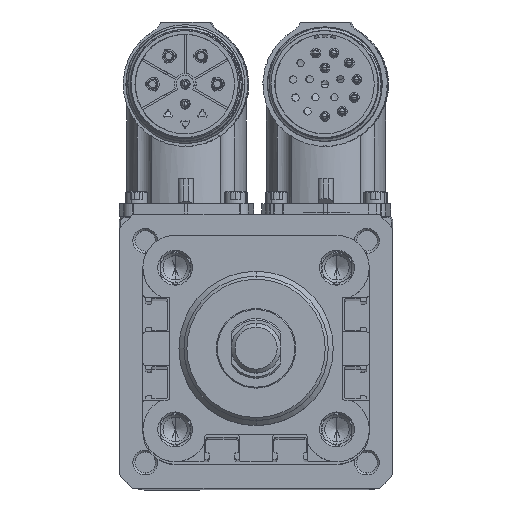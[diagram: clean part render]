
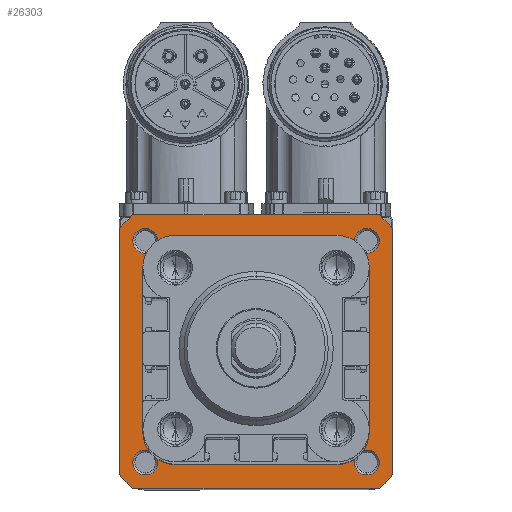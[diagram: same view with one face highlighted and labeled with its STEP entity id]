
A CAD part, top view. The second image highlights one B-rep face of the part: STEP entity #26303.
In plain terms, the highlighted planar face has unit normal (0, 0, 1) as drawn and (0, 0, -1) by its records, which use the part's own axes.
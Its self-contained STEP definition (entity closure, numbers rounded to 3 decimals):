
#24393=CARTESIAN_POINT('',(0.,0.,0.));
#24394=DIRECTION('',(0.,0.,1.));
#24395=DIRECTION('',(0.,1.,0.));
#24396=AXIS2_PLACEMENT_3D('',#24393,#24394,#24395);
#24398=CARTESIAN_POINT('',(0.,0.,0.));
#24399=DIRECTION('',(0.,0.,-1.));
#24400=DIRECTION('',(0.,1.,0.));
#24401=AXIS2_PLACEMENT_3D('',#24398,#24399,#24400);
#24403=CARTESIAN_POINT('',(0.,0.,0.));
#24404=DIRECTION('',(0.,0.,1.));
#24405=DIRECTION('',(-0.669,0.743,0.));
#24406=AXIS2_PLACEMENT_3D('',#24403,#24404,#24405);
#24408=DIRECTION('',(0.,1.,0.));
#24409=VECTOR('',#24408,49.508);
#24410=CARTESIAN_POINT('',(-27.5,-24.754,0.));
#24411=LINE('',#24410,#24409);
#24412=CARTESIAN_POINT('',(0.,0.,0.));
#24413=DIRECTION('',(0.,0.,1.));
#24414=DIRECTION('',(-0.743,-0.669,0.));
#24415=AXIS2_PLACEMENT_3D('',#24412,#24413,#24414);
#24417=DIRECTION('',(-1.,0.,0.));
#24418=VECTOR('',#24417,49.508);
#24419=CARTESIAN_POINT('',(24.754,-27.5,0.));
#24420=LINE('',#24419,#24418);
#24421=CARTESIAN_POINT('',(0.,0.,0.));
#24422=DIRECTION('',(0.,0.,1.));
#24423=DIRECTION('',(0.669,-0.743,0.));
#24424=AXIS2_PLACEMENT_3D('',#24421,#24422,#24423);
#24426=DIRECTION('',(0.,-1.,0.));
#24427=VECTOR('',#24426,49.508);
#24428=CARTESIAN_POINT('',(27.5,24.754,0.));
#24429=LINE('',#24428,#24427);
#24430=CARTESIAN_POINT('',(0.,0.,0.));
#24431=DIRECTION('',(0.,0.,1.));
#24432=DIRECTION('',(0.743,0.669,0.));
#24433=AXIS2_PLACEMENT_3D('',#24430,#24431,#24432);
#24435=DIRECTION('',(1.,0.,0.));
#24436=VECTOR('',#24435,49.508);
#24437=CARTESIAN_POINT('',(-24.754,27.5,0.));
#24438=LINE('',#24437,#24436);
#24439=CARTESIAN_POINT('',(22.274,22.274,0.));
#24440=DIRECTION('',(0.,0.,1.));
#24441=DIRECTION('',(0.,1.,0.));
#24442=AXIS2_PLACEMENT_3D('',#24439,#24440,#24441);
#24444=CARTESIAN_POINT('',(22.274,22.274,0.));
#24445=DIRECTION('',(0.,0.,1.));
#24446=DIRECTION('',(0.,-1.,0.));
#24447=AXIS2_PLACEMENT_3D('',#24444,#24445,#24446);
#24449=CARTESIAN_POINT('',(22.274,-22.274,0.));
#24450=DIRECTION('',(0.,0.,-1.));
#24451=DIRECTION('',(0.,-1.,0.));
#24452=AXIS2_PLACEMENT_3D('',#24449,#24450,#24451);
#24454=CARTESIAN_POINT('',(22.274,-22.274,0.));
#24455=DIRECTION('',(0.,0.,-1.));
#24456=DIRECTION('',(0.,1.,0.));
#24457=AXIS2_PLACEMENT_3D('',#24454,#24455,#24456);
#24459=CARTESIAN_POINT('',(-22.274,22.274,0.));
#24460=DIRECTION('',(0.,0.,1.));
#24461=DIRECTION('',(0.,1.,0.));
#24462=AXIS2_PLACEMENT_3D('',#24459,#24460,#24461);
#24464=CARTESIAN_POINT('',(-22.274,22.274,0.));
#24465=DIRECTION('',(0.,0.,1.));
#24466=DIRECTION('',(0.,-1.,0.));
#24467=AXIS2_PLACEMENT_3D('',#24464,#24465,#24466);
#24469=CARTESIAN_POINT('',(-22.274,-22.274,0.));
#24470=DIRECTION('',(0.,0.,-1.));
#24471=DIRECTION('',(0.,-1.,0.));
#24472=AXIS2_PLACEMENT_3D('',#24469,#24470,#24471);
#24474=CARTESIAN_POINT('',(-22.274,-22.274,0.));
#24475=DIRECTION('',(0.,0.,-1.));
#24476=DIRECTION('',(0.,1.,0.));
#24477=AXIS2_PLACEMENT_3D('',#24474,#24475,#24476);
#25323=CARTESIAN_POINT('',(0.,22.289,0.));
#25324=VERTEX_POINT('',#25323);
#25331=CARTESIAN_POINT('',(0.,-22.289,0.));
#25332=VERTEX_POINT('',#25331);
#25333=CARTESIAN_POINT('',(-24.754,27.5,0.));
#25334=CARTESIAN_POINT('',(-27.5,24.754,0.));
#25335=VERTEX_POINT('',#25333);
#25336=VERTEX_POINT('',#25334);
#25337=CARTESIAN_POINT('',(24.754,27.5,0.));
#25338=VERTEX_POINT('',#25337);
#25339=CARTESIAN_POINT('',(27.5,24.754,0.));
#25340=VERTEX_POINT('',#25339);
#25341=CARTESIAN_POINT('',(27.5,-24.754,0.));
#25342=VERTEX_POINT('',#25341);
#25343=CARTESIAN_POINT('',(24.754,-27.5,0.));
#25344=VERTEX_POINT('',#25343);
#25345=CARTESIAN_POINT('',(-24.754,-27.5,0.));
#25346=VERTEX_POINT('',#25345);
#25347=CARTESIAN_POINT('',(-27.5,-24.754,0.));
#25348=VERTEX_POINT('',#25347);
#25373=CARTESIAN_POINT('',(22.274,24.774,0.));
#25374=CARTESIAN_POINT('',(22.274,19.774,0.));
#25375=VERTEX_POINT('',#25373);
#25376=VERTEX_POINT('',#25374);
#25676=CARTESIAN_POINT('',(22.274,-24.774,0.));
#25677=CARTESIAN_POINT('',(22.274,-19.774,0.));
#25678=VERTEX_POINT('',#25676);
#25679=VERTEX_POINT('',#25677);
#25692=CARTESIAN_POINT('',(-22.274,24.774,0.));
#25693=CARTESIAN_POINT('',(-22.274,19.774,0.));
#25694=VERTEX_POINT('',#25692);
#25695=VERTEX_POINT('',#25693);
#25708=CARTESIAN_POINT('',(-22.274,-24.774,0.));
#25709=CARTESIAN_POINT('',(-22.274,-19.774,0.));
#25710=VERTEX_POINT('',#25708);
#25711=VERTEX_POINT('',#25709);
#26251=CARTESIAN_POINT('',(0.,0.,0.));
#26252=DIRECTION('',(0.,0.,1.));
#26253=DIRECTION('',(0.,1.,0.));
#26254=AXIS2_PLACEMENT_3D('',#26251,#26252,#26253);
#26255=PLANE('',#26254);
#26256=ORIENTED_EDGE('',*,*,#26241,.T.);
#26258=ORIENTED_EDGE('',*,*,#26257,.F.);
#26260=ORIENTED_EDGE('',*,*,#26259,.T.);
#26262=ORIENTED_EDGE('',*,*,#26261,.F.);
#26264=ORIENTED_EDGE('',*,*,#26263,.T.);
#26266=ORIENTED_EDGE('',*,*,#26265,.F.);
#26268=ORIENTED_EDGE('',*,*,#26267,.T.);
#26270=ORIENTED_EDGE('',*,*,#26269,.F.);
#26271=EDGE_LOOP('',(#26256,#26258,#26260,#26262,#26264,#26266,#26268,#26270));
#26272=FACE_OUTER_BOUND('',#26271,.F.);
#26274=ORIENTED_EDGE('',*,*,#26273,.F.);
#26276=ORIENTED_EDGE('',*,*,#26275,.T.);
#26277=EDGE_LOOP('',(#26274,#26276));
#26278=FACE_BOUND('',#26277,.F.);
#26280=ORIENTED_EDGE('',*,*,#26279,.F.);
#26282=ORIENTED_EDGE('',*,*,#26281,.F.);
#26283=EDGE_LOOP('',(#26280,#26282));
#26284=FACE_BOUND('',#26283,.F.);
#26286=ORIENTED_EDGE('',*,*,#26285,.T.);
#26288=ORIENTED_EDGE('',*,*,#26287,.T.);
#26289=EDGE_LOOP('',(#26286,#26288));
#26290=FACE_BOUND('',#26289,.F.);
#26292=ORIENTED_EDGE('',*,*,#26291,.F.);
#26294=ORIENTED_EDGE('',*,*,#26293,.F.);
#26295=EDGE_LOOP('',(#26292,#26294));
#26296=FACE_BOUND('',#26295,.F.);
#26298=ORIENTED_EDGE('',*,*,#26297,.T.);
#26300=ORIENTED_EDGE('',*,*,#26299,.T.);
#26301=EDGE_LOOP('',(#26298,#26300));
#26302=FACE_BOUND('',#26301,.F.);
#26303=ADVANCED_FACE('',(#26272,#26278,#26284,#26290,#26296,#26302),#26255,.F.);
#24397=CIRCLE('',#24396,22.289);
#24402=CIRCLE('',#24401,22.289);
#24407=CIRCLE('',#24406,37.);
#24416=CIRCLE('',#24415,37.);
#24425=CIRCLE('',#24424,37.);
#24434=CIRCLE('',#24433,37.);
#24443=CIRCLE('',#24442,2.5);
#24448=CIRCLE('',#24447,2.5);
#24453=CIRCLE('',#24452,2.5);
#24458=CIRCLE('',#24457,2.5);
#24463=CIRCLE('',#24462,2.5);
#24468=CIRCLE('',#24467,2.5);
#24473=CIRCLE('',#24472,2.5);
#24478=CIRCLE('',#24477,2.5);
#26241=EDGE_CURVE('',#25335,#25336,#24407,.T.);
#26257=EDGE_CURVE('',#25348,#25336,#24411,.T.);
#26259=EDGE_CURVE('',#25348,#25346,#24416,.T.);
#26261=EDGE_CURVE('',#25344,#25346,#24420,.T.);
#26263=EDGE_CURVE('',#25344,#25342,#24425,.T.);
#26265=EDGE_CURVE('',#25340,#25342,#24429,.T.);
#26267=EDGE_CURVE('',#25340,#25338,#24434,.T.);
#26269=EDGE_CURVE('',#25335,#25338,#24438,.T.);
#26273=EDGE_CURVE('',#25324,#25332,#24397,.T.);
#26275=EDGE_CURVE('',#25324,#25332,#24402,.T.);
#26279=EDGE_CURVE('',#25375,#25376,#24443,.T.);
#26281=EDGE_CURVE('',#25376,#25375,#24448,.T.);
#26285=EDGE_CURVE('',#25678,#25679,#24453,.T.);
#26287=EDGE_CURVE('',#25679,#25678,#24458,.T.);
#26291=EDGE_CURVE('',#25694,#25695,#24463,.T.);
#26293=EDGE_CURVE('',#25695,#25694,#24468,.T.);
#26297=EDGE_CURVE('',#25710,#25711,#24473,.T.);
#26299=EDGE_CURVE('',#25711,#25710,#24478,.T.);
